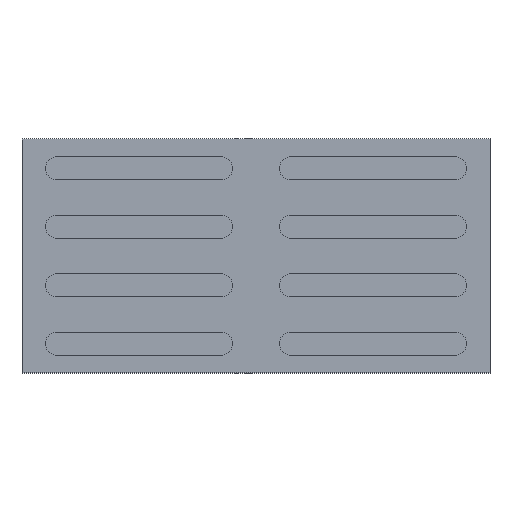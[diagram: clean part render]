
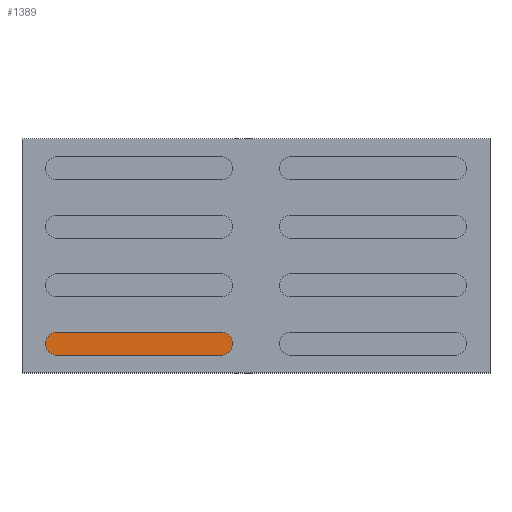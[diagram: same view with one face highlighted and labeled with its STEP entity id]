
A CAD part, top view. The second image highlights one B-rep face of the part: STEP entity #1389.
In plain terms, the highlighted planar face has unit normal (0, 0, 1).
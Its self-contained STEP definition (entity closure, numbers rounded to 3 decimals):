
#529 = EDGE_CURVE('',#530,#532,#534,.T.);
#530 = VERTEX_POINT('',#531);
#531 = CARTESIAN_POINT('',(45.,52.5,8.));
#532 = VERTEX_POINT('',#533);
#533 = CARTESIAN_POINT('',(45.,22.5,8.));
#534 = CIRCLE('',#535,15.);
#535 = AXIS2_PLACEMENT_3D('',#536,#537,#538);
#536 = CARTESIAN_POINT('',(45.,37.5,8.));
#537 = DIRECTION('',(0.,0.,1.));
#538 = DIRECTION('',(1.,0.,0.));
#563 = EDGE_CURVE('',#532,#564,#566,.T.);
#564 = VERTEX_POINT('',#565);
#565 = CARTESIAN_POINT('',(255.,22.5,8.));
#566 = LINE('',#567,#568);
#567 = CARTESIAN_POINT('',(45.,22.5,8.));
#568 = VECTOR('',#569,1.);
#569 = DIRECTION('',(1.,0.,0.));
#585 = EDGE_CURVE('',#564,#586,#588,.T.);
#586 = VERTEX_POINT('',#587);
#587 = CARTESIAN_POINT('',(270.,37.5,8.));
#588 = CIRCLE('',#589,15.);
#589 = AXIS2_PLACEMENT_3D('',#590,#591,#592);
#590 = CARTESIAN_POINT('',(255.,37.5,8.));
#591 = DIRECTION('',(0.,0.,1.));
#592 = DIRECTION('',(1.,0.,0.));
#598 = VERTEX_POINT('',#599);
#599 = CARTESIAN_POINT('',(255.,52.5,8.));
#605 = EDGE_CURVE('',#586,#598,#606,.T.);
#606 = CIRCLE('',#607,15.);
#607 = AXIS2_PLACEMENT_3D('',#608,#609,#610);
#608 = CARTESIAN_POINT('',(255.,37.5,8.));
#609 = DIRECTION('',(0.,0.,1.));
#610 = DIRECTION('',(1.,0.,0.));
#622 = EDGE_CURVE('',#530,#598,#623,.T.);
#623 = LINE('',#624,#625);
#624 = CARTESIAN_POINT('',(45.,52.5,8.));
#625 = VECTOR('',#626,1.);
#626 = DIRECTION('',(1.,0.,0.));
#1389 = ADVANCED_FACE('',(#1390),#1397,.T.);
#1390 = FACE_BOUND('',#1391,.T.);
#1391 = EDGE_LOOP('',(#1392,#1393,#1394,#1395,#1396));
#1392 = ORIENTED_EDGE('',*,*,#529,.T.);
#1393 = ORIENTED_EDGE('',*,*,#563,.T.);
#1394 = ORIENTED_EDGE('',*,*,#585,.T.);
#1395 = ORIENTED_EDGE('',*,*,#605,.T.);
#1396 = ORIENTED_EDGE('',*,*,#622,.F.);
#1397 = PLANE('',#1398);
#1398 = AXIS2_PLACEMENT_3D('',#1399,#1400,#1401);
#1399 = CARTESIAN_POINT('',(150.414,37.5,8.));
#1400 = DIRECTION('',(0.,0.,1.));
#1401 = DIRECTION('',(1.,0.,0.));
